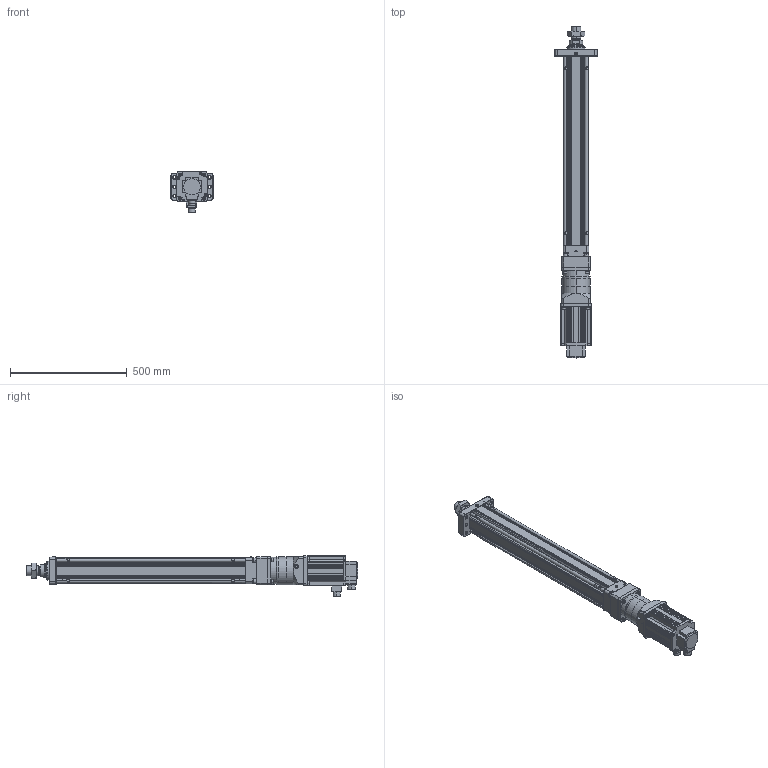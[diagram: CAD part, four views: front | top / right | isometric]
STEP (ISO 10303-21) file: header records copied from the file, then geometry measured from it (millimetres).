
FILE_DESCRIPTION((''),'2;1');
FILE_NAME('HEB100-100-D_ASM','2020-09-05T',('ASUS20200'),(''),'CREO PARAMETRIC BY PTC INC, 2014190','CREO PARAMETRIC BY PTC INC, 2014190','');
FILE_SCHEMA(('CONFIG_CONTROL_DESIGN'));
Length unit declared in the file: millimetre
Products named in the file (33): HEB100-D-P-001-X1; HEB100-D-P-002-X1; HEB100-D-P-008-X1; HEB100-D-P-003-X1; TD-12; SLM-01; YZ-M6X1; HEB100-D-P-004-X1; HEB100-D-P-005-X1; LM-M42X2; M12X45; M12X60; HEB100-100-D-P_ASM; HEB100-D-010-X1-PLF160N; __-__30; __2_1_; __-__16; PLFK120___ASM; PLFK120__ASM; 130_; 130___; 130__2_1; 130___15_2500; 130___1; __2; __1; 130____-769_ASM; 130____-6072; SMA-382K25-FJ_1_ASM; SMA-382K25-FJ_ASM; TD-8; M8X35; HEB100-100-D_ASM
Assembly tree (62 placements, depth 5):
  HEB100-100-D_ASM
    HEB100-100-D-P_ASM
      HEB100-D-P-001-X1
      HEB100-D-P-002-X1
      HEB100-D-P-008-X1  x4
      HEB100-D-P-003-X1
      TD-12  x8
      SLM-01
      YZ-M6X1
      HEB100-D-P-004-X1
      HEB100-D-P-005-X1
      LM-M42X2
      M12X45  x4
      M12X60  x4
    HEB100-D-010-X1-PLF160N
    PLFK120__ASM
      PLFK120___ASM
        __-__30
        __2_1_
        __-__16
    SMA-382K25-FJ_ASM
      SMA-382K25-FJ_1_ASM
        130_
        130___
        130__2_1
        130___15_2500
        130___1
        130____-769_ASM
          __2
          __1
        130____-6072
    TD-8  x8
    M8X35  x8
Bounding box: 180 x 1420 x 174.73 mm (x, y, z)
Volume: 8154645.5 mm3; surface area: 1920793.3 mm2
Topology: 56 solids, 82 shells, 2558 faces, 6224 edges, 3948 vertices
Faces by surface type: plane 1136, cylinder 834, cone 448, torus 132, extrusion 4, bspline 2, sphere 2
Entity records: 60822 total; most frequent: CARTESIAN_POINT 11598, DIRECTION 10739, ORIENTED_EDGE 9648, EDGE_CURVE 4864, AXIS2_PLACEMENT_3D 4009, VERTEX_POINT 3108, VECTOR 2721, LINE 2717
